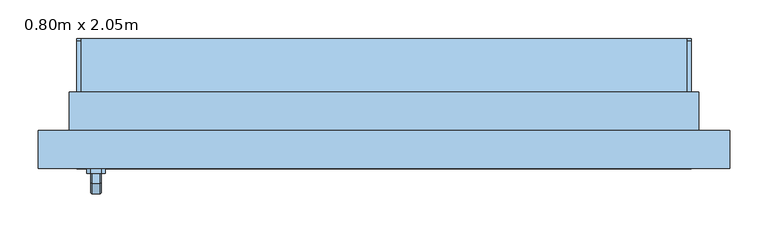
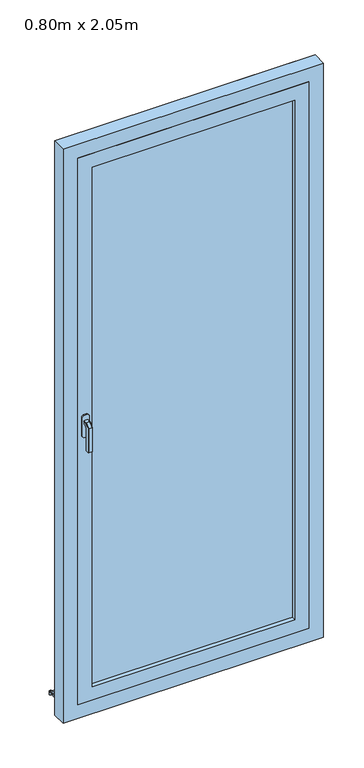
"""IFC4 building model written with IfcOpenShell, lengths in millimetres: window geometry, PF 1 Vantail - Droite : 0.80m x 2.05m."""

from ifc_helpers import new_model, si_unit, point, frame, frame_2d, origin, place, context, project, spatial, polyline, circle_curve, trimmed, segment, composite_curve, outline, extrude, faceted_brep, source, transform, mapped, element, save


def window_0_80m_x_2_05m_30132c93(model_context):
    return source(origin(), model_context, "Body", "SolidModel", [
        faceted_brep([(-369.3539903, -86.0, 1122.0339292), (-367.9660708, -86.0, 1120.6460097), (-367.9660708, -86.0, 1109.3323012), (-369.3323012, -86.0, 1107.9660708), (-380.6676988, -86.0, 1107.9660708), (-382.0339292, -86.0, 1109.3323012), (-382.0339292, -86.0, 1120.6460097), (-380.6460097, -86.0, 1122.0339292), (-369.3539903, -98.9135489, 1122.0339292), (-367.9660708, -98.3386538, 1120.6460097), (-367.9660708, -111.6460097, 1107.3386538), (-367.9660708, -111.6460097, 1020.0), (-367.9660708, -100.3323012, 1020.0), (-367.9660708, -100.3323012, 1102.6523623), (-367.9660708, -93.6523623, 1109.3323012), (-369.3323012, -93.0864511, 1107.9660708), (-380.6676988, -93.0864511, 1107.9660708), (-382.0339292, -93.6523623, 1109.3323012), (-382.0339292, -100.3323012, 1102.6523623), (-382.0339292, -100.3323012, 1020.0), (-382.0339292, -111.6460097, 1020.0), (-382.0339292, -111.6460097, 1107.3386538), (-382.0339292, -98.3386538, 1120.6460097), (-380.6460097, -98.9135489, 1122.0339292), (-369.3539903, -113.0339292, 1107.9135489), (-369.3323012, -98.9660708, 1102.0864511), (-380.6676988, -98.9660708, 1102.0864511), (-380.6460097, -113.0339292, 1107.9135489), (-369.3539903, -113.0339292, 1020.0), (-380.6460097, -113.0339292, 1020.0), (-380.6676988, -98.9660708, 1020.0), (-369.3323012, -98.9660708, 1020.0)], [[[0, 1, 2, 3, 4, 5, 6, 7]], [[1, 0, 8, 9]], [[2, 1, 9, 10, 11, 12, 13, 14]], [[3, 2, 14, 15]], [[4, 3, 15, 16]], [[5, 4, 16, 17]], [[6, 5, 17, 18, 19, 20, 21, 22]], [[7, 6, 22, 23]], [[0, 7, 23, 8]], [[9, 8, 24, 10]], [[15, 14, 13, 25]], [[16, 15, 25, 26]], [[17, 16, 26, 18]], [[23, 22, 21, 27]], [[8, 23, 27, 24]], [[28, 29, 20, 19, 30, 31, 12, 11]], [[10, 24, 28, 11]], [[25, 13, 12, 31]], [[26, 25, 31, 30]], [[18, 26, 30, 19]], [[27, 21, 20, 29]], [[24, 27, 29, 28]]]),
        extrude(outline(polyline([(1140.0, -368.0), (1140.0, -382.0), (1135.0, -387.0), (1065.0, -387.0), (1060.0, -382.0), (1060.0, -368.0), (1065.0, -363.0), (1135.0, -363.0), (1140.0, -368.0)])), frame((0.0, -86.0, 0.0), z_axis=(0.0, 1.0, 0.0), x_axis=(0.0, 0.0, 1.0)), (0.0, 0.0, 1.0), 6.0),
        extrude(outline(polyline([(90.0288776, 30.7927954), (90.0288776, 19.7145929), (85.0288776, 20.2401141), (85.0288776, 26.0631048), (0.0, 35.0), (0.0, 50.0), (5.0, 50.0), (5.0, 39.7296906), (90.0288776, 30.7927954)])), frame((-400.0, 0.0, 0.0), z_axis=(1.0, 0.0, 0.0), x_axis=(0.0, 1.0, 0.0)), (0.0, 0.0, 1.0), 800.0),
        extrude(outline(composite_curve([segment(polyline([(90.0288776, 30.7927954), (5.0, 39.7296906), (5.0, 44.757232), (86.4469915, 36.1968082)]), True, "CONTINUOUS"), segment(trimmed(circle_curve(frame_2d((86.0288776, 32.2187207)), 4.0), [point((86.4469915, 36.1968082))], [point((90.0288776, 32.2187207))], False, "CARTESIAN"), True, "CONTINUOUS"), segment(polyline([(90.0288776, 32.2187207), (90.0288776, 30.7927954)]), True, "CONTINUOUS")], self_intersect=False)), frame((-400.0, 0.0, 0.0), z_axis=(1.0, 0.0, 0.0), x_axis=(0.0, 1.0, 0.0)), (0.0, 0.0, 1.0), 5.0),
        extrude(outline(composite_curve([segment(polyline([(90.0288776, 30.7927954), (5.0, 39.7296906), (5.0, 44.757232), (86.4469915, 36.1968082)]), True, "CONTINUOUS"), segment(trimmed(circle_curve(frame_2d((86.0288776, 32.2187207)), 4.0), [point((86.4469915, 36.1968082))], [point((90.0288776, 32.2187207))], False, "CARTESIAN"), True, "CONTINUOUS"), segment(polyline([(90.0288776, 32.2187207), (90.0288776, 30.7927954)]), True, "CONTINUOUS")], self_intersect=False)), frame((395.0, 0.0, 0.0), z_axis=(1.0, 0.0, 0.0), x_axis=(0.0, 1.0, 0.0)), (0.0, 0.0, 1.0), 5.0),
        extrude(outline(polyline([(-350.0, -54.0), (350.0, -54.0), (350.0, -66.0), (-350.0, -66.0), (-350.0, -54.0)])), frame((0.0, 0.0, 135.0), z_axis=(0.0, 0.0, 1.0), x_axis=(1.0, 0.0, 0.0)), (0.0, 0.0, 1.0), 1900.0),
        extrude(outline(polyline([(85.0, 400.0), (2085.0, 400.0), (2085.0, -400.0), (85.0, -400.0), (85.0, 400.0)]), holes=[polyline([(135.0, -350.0), (2035.0, -350.0), (2035.0, 350.0), (135.0, 350.0), (135.0, -350.0)])]), frame((0.0, -80.0, 0.0), z_axis=(0.0, 1.0, 0.0), x_axis=(0.0, 0.0, 1.0)), (0.0, 0.0, 1.0), 40.0),
        faceted_brep([(-450.0, -80.0, 35.0), (-450.0, -30.0, 35.0), (-400.0, -30.0, 35.0), (-400.0, 0.0, 35.0), (400.0, 0.0, 35.0), (400.0, -30.0, 35.0), (450.0, -30.0, 35.0), (450.0, -80.0, 35.0), (-450.0, -80.0, 2135.0), (-450.0, -30.0, 2135.0), (450.0, -30.0, 2135.0), (400.0, -30.0, 74.3761425), (-400.0, -30.0, 74.3761425), (-385.0, -30.0, 2070.0), (-385.0, -30.0, 100.0), (385.0, -30.0, 100.0), (385.0, -30.0, 2070.0), (-400.0, 20.0, 60.9786829), (-400.0, 20.0, 45.0), (-400.0, 10.0, 45.0), (-400.0, 10.0, 50.0), (-400.0, 0.0, 50.0), (400.0, 0.0, 50.0), (400.0, 10.0, 50.0), (400.0, 10.0, 45.0), (400.0, 20.0, 45.0), (400.0, 20.0, 60.9786829), (450.0, -80.0, 2135.0), (400.0, -80.0, 2085.0), (400.0, -80.0, 85.0), (-400.0, -80.0, 85.0), (-400.0, -80.0, 2085.0), (-385.0, -40.0, 2070.0), (-385.0, -40.0, 100.0), (385.0, -40.0, 100.0), (385.0, -40.0, 2070.0), (400.0, -40.0, 2085.0), (-400.0, -40.0, 2085.0), (-400.0, -40.0, 85.0), (400.0, -40.0, 85.0)], [[[0, 1, 2, 3, 4, 5, 6, 7]], [[1, 0, 8, 9]], [[1, 9, 10, 6, 5, 11, 12, 2], [13, 14, 15, 16]], [[12, 17, 18, 19, 20, 21, 3, 2]], [[3, 21, 22, 4]], [[4, 22, 23, 24, 25, 26, 11, 5]], [[6, 10, 27, 7]], [[0, 7, 27, 8], [28, 29, 30, 31]], [[13, 32, 33, 14]], [[33, 34, 15, 14]], [[35, 16, 15, 34]], [[17, 12, 11, 26]], [[36, 37, 38, 39], [32, 35, 34, 33]], [[38, 37, 31, 30]], [[30, 29, 39, 38]], [[28, 36, 39, 29]], [[18, 17, 26, 25]], [[19, 18, 25, 24]], [[20, 19, 24, 23]], [[21, 20, 23, 22]], [[13, 16, 35, 32]], [[37, 36, 28, 31]], [[10, 9, 8, 27]]]),
        extrude(outline(polyline([(35.0, -410.0), (35.0, -400.0), (2085.0, -400.0), (2085.0, 400.0), (35.0, 400.0), (35.0, 410.0), (2095.0, 410.0), (2095.0, -410.0), (35.0, -410.0)])), frame((0.0, -30.0, 0.0), z_axis=(0.0, 1.0, 0.0), x_axis=(0.0, 0.0, 1.0)), (0.0, 0.0, 1.0), 50.0),
    ])


if __name__ == "__main__":
    model = new_model("IFC4")
    model_context = context("Model", 3, world=origin())
    ifc_project = project(units=[si_unit("LENGTHUNIT", "METRE", prefix="MILLI")], contexts=[model_context])
    site = spatial("IfcSite", under=ifc_project)
    building = spatial("IfcBuilding", under=site)
    placement = place(None, origin())
    window_0_80m_x_2_05m_shape = window_0_80m_x_2_05m_30132c93(model_context)
    element("IfcWindow", 1, ObjectType="PF 1 Vantail - Droite : 0.80m x 2.05m", at=placement, inside=building, context=model_context, shape_type="MappedRepresentation", body=[
        mapped(window_0_80m_x_2_05m_shape, transform((0.0, 0.0, 0.0), x_axis=(1.0, 0.0, 0.0), y_axis=(0.0, 1.0, 0.0), z_axis=(0.0, 0.0, 1.0))),
    ])
    save(model, "model.ifc")
